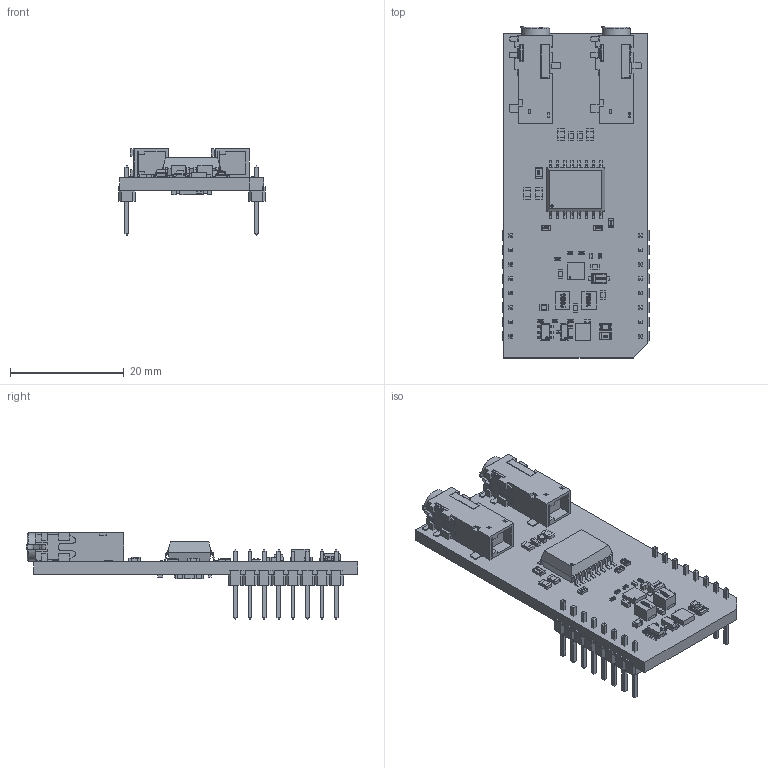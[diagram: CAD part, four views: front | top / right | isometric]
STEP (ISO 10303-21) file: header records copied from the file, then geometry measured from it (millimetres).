
FILE_DESCRIPTION(('Open CASCADE Model'),'2;1');
FILE_NAME('Open CASCADE Shape Model','2025-11-18T11:01:48',('Author'),( 'Open CASCADE'),'Open CASCADE STEP processor 7.5','Open CASCADE 7.5' ,'Unknown');
FILE_SCHEMA(('AUTOMOTIVE_DESIGN { 1 0 10303 214 1 1 1 1 }'));
Length unit declared in the file: millimetre
Products named in the file (79): PCB; Board; Open CASCADE STEP translator 7.5 1.1.1; U5; User Library-SOT23-6-2; U4; 6167241840; Extruded; R14; User Library-R_0402; R13; R12; Q2; SOT23-3; C10; User Library-SMD CAPACITOR0402; MBD1; Header 1x8; Free-Models; 1240637040; User_Library-PinHeaderX5-1_PinHeaderX5_Body_1; User_Library-PinHeaderX5-1_PinHeaderX5_Pins_1; LD1; led_0805_green; R1; User Library-R_0805; C1; User Library-SMD CAPACITOR0603; C2; User Library-SMD CAPACITOR0805; C3; C4; C5; C6; C7; C8; C9; C11; C12; C14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
Assembly tree (108 placements, depth 7):
  PCB
    Board
      Open CASCADE STEP translator 7.5 1.1.1
    U5
      User Library-SOT23-6-2
    U4
      6167241840
        Extruded
    R14
      User Library-R_0402
    R13
      User Library-R_0402
    R12
      User Library-R_0402
    Q2
      SOT23-3
    C10
      User Library-SMD CAPACITOR0402
    MBD1
      Header 1x8  x2
        PCB
          Free-Models
            1240637040  x2
              User_Library-PinHeaderX5-1_PinHeaderX5_Body_1
              User_Library-PinHeaderX5-1_PinHeaderX5_Pins_1
    LD1
      led_0805_green
    R1
      User Library-R_0805
    C1
      User Library-SMD CAPACITOR0603
    C2
      User Library-SMD CAPACITOR0805
    C3
      User Library-SMD CAPACITOR0805
    C4
      User Library-SMD CAPACITOR0603
    C5
      User Library-SMD CAPACITOR0603
    C6
      User Library-SMD CAPACITOR0402
    C7
      User Library-SMD CAPACITOR0603
    C8
      User Library-SMD CAPACITOR0603
    C9
      User Library-SMD CAPACITOR0603
    C11
      User Library-SMD CAPACITOR0603
    C12
      User Library-SMD CAPACITOR0805
    C14
      User Library-SMD CAPACITOR0805
    C13
      User Library-SMD CAPACITOR0603
    C15
      User Library-SMD CAPACITOR0603
    C16
      User Library-SMD CAPACITOR0402
    C17
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Bounding box: 25.78 x 58.48 x 15.21 mm (x, y, z)
Volume: 4919.3 mm3; surface area: 6513.3 mm2
Topology: 107 solids, 108 shells, 3690 faces, 9341 edges, 5875 vertices
Faces by surface type: plane 2450, bspline 573, cylinder 483, sphere 160, cone 16, torus 8
Entity records: 64535 total; most frequent: CARTESIAN_POINT 18764, ORIENTED_EDGE 7558, DIRECTION 6758, EDGE_CURVE 3781, LINE 2982, VECTOR 2982, VERTEX_POINT 2441, AXIS2_PLACEMENT_3D 1888
